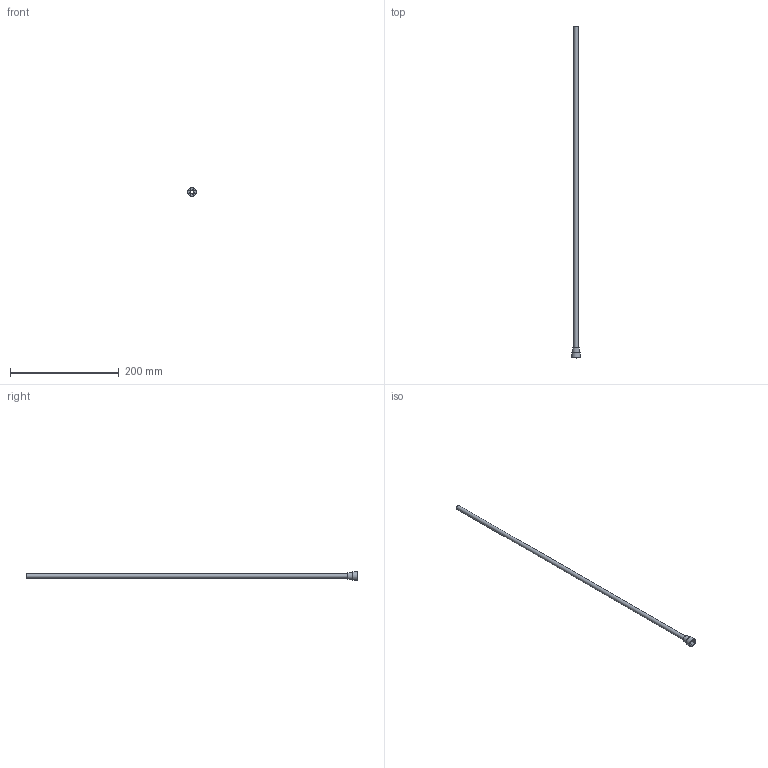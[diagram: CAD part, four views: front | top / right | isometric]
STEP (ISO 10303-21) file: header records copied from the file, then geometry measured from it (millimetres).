
FILE_DESCRIPTION(/* description */ (''),/* implementation_level */ '2;1');
FILE_NAME(/* name */ 'C:/Users/drich/Desktop/JR312T-24 v1.step',/* time_stamp */ '2019-12-30T13:07:25-06:00',/* author */ (''),/* organization */ (''),/* preprocessor_version */ 'ST-DEVELOPER v18',/* originating_system */ 'Autodesk Translation Framework v8.12.0.6',/* authorisation */ '');
FILE_SCHEMA (('AUTOMOTIVE_DESIGN { 1 0 10303 214 3 1 1 }'));
Length unit declared in the file: inch
Products named in the file (1): JR312T-24
Bounding box: 15.75 x 609.6 x 15.75 mm (x, y, z)
Volume: 6265.4 mm3; surface area: 29919.4 mm2
Topology: 1 solids, 1 shells, 19 faces, 47 edges, 33 vertices
Faces by surface type: plane 11, cylinder 4, torus 3, cone 1
Full cylindrical faces by diameter (mm): 7.315 x1, 7.925 x1, 12.565 x1, 15.748 x1
Entity records: 624 total; most frequent: DIRECTION 111, CARTESIAN_POINT 100, ORIENTED_EDGE 94, EDGE_CURVE 47, AXIS2_PLACEMENT_3D 44, VERTEX_POINT 33, EDGE_LOOP 24, CIRCLE 24
